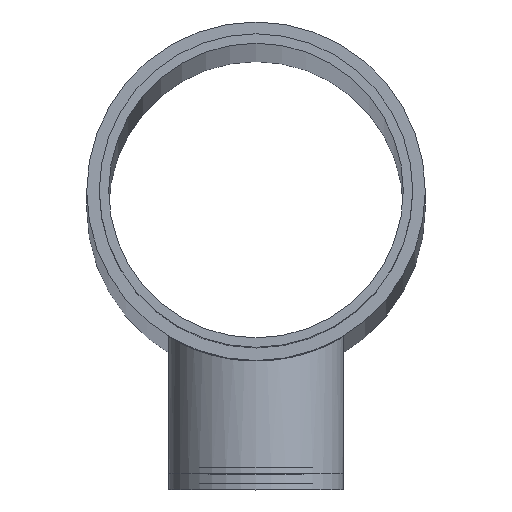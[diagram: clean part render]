
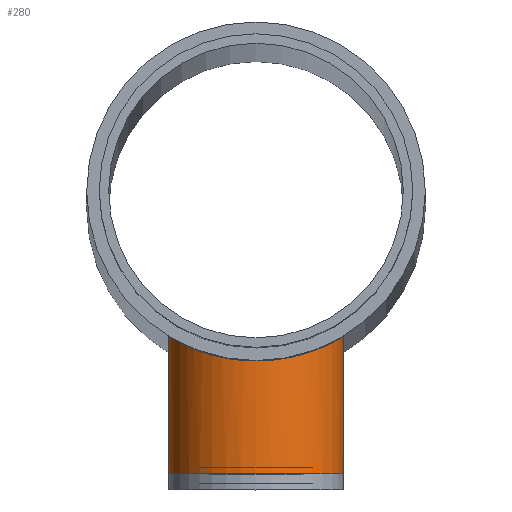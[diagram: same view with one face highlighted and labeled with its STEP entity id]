
A CAD part, top view. The second image highlights one B-rep face of the part: STEP entity #280.
In plain terms, the highlighted cylindrical face has radius 14 mm (diameter 28 mm), a full revolution.
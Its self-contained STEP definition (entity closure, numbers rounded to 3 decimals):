
#29=B_SPLINE_CURVE_WITH_KNOTS('',3,(#494,#495,#496,#497,#498,#499,#500,
#501,#502,#503,#504,#505,#506,#507,#508,#509,#510,#511,#512,#513,#514,#515,
#516,#517,#518,#519),.UNSPECIFIED.,.F.,.F.,(4,2,2,2,2,2,2,2,2,2,2,2,4),
(0.,0.27,0.54,1.08,1.618,
1.887,2.156,2.426,2.695,3.233,
3.773,4.043,4.313),.UNSPECIFIED.);
#30=B_SPLINE_CURVE_WITH_KNOTS('',3,(#520,#521,#522,#523,#524,#525,#526,
#527,#528,#529,#530,#531,#532,#533,#534,#535,#536,#537,#538,#539,#540,#541,
#542,#543,#544,#545),.UNSPECIFIED.,.F.,.F.,(4,2,2,2,2,2,2,2,2,2,2,2,4),
(4.313,4.583,4.853,5.393,5.931,
6.2,6.469,6.738,7.007,7.546,
8.086,8.356,8.626),.UNSPECIFIED.);
#37=LINE('',#547,#47);
#47=VECTOR('',#372,14.);
#57=CYLINDRICAL_SURFACE('',#321,14.);
#80=FACE_OUTER_BOUND('',#101,.T.);
#101=EDGE_LOOP('',(#212,#213,#214,#215,#216));
#130=CIRCLE('',#322,14.);
#148=VERTEX_POINT('',#492);
#149=VERTEX_POINT('',#493);
#150=VERTEX_POINT('',#546);
#174=EDGE_CURVE('',#148,#149,#29,.T.);
#175=EDGE_CURVE('',#149,#148,#30,.T.);
#176=EDGE_CURVE('',#149,#150,#37,.T.);
#177=EDGE_CURVE('',#150,#150,#130,.T.);
#212=ORIENTED_EDGE('',*,*,#174,.F.);
#213=ORIENTED_EDGE('',*,*,#175,.F.);
#214=ORIENTED_EDGE('',*,*,#176,.T.);
#215=ORIENTED_EDGE('',*,*,#177,.T.);
#216=ORIENTED_EDGE('',*,*,#176,.F.);
#280=ADVANCED_FACE('',(#80),#57,.T.);
#321=AXIS2_PLACEMENT_3D('',#491,#370,#371);
#322=AXIS2_PLACEMENT_3D('',#548,#373,#374);
#370=DIRECTION('center_axis',(0.,1.,0.));
#371=DIRECTION('ref_axis',(1.,0.,0.));
#372=DIRECTION('',(0.,-1.,0.));
#373=DIRECTION('center_axis',(0.,1.,0.));
#374=DIRECTION('ref_axis',(1.,0.,0.));
#491=CARTESIAN_POINT('Origin',(0.,-45.,1570.));
#492=CARTESIAN_POINT('',(14.,-23.087,1570.));
#493=CARTESIAN_POINT('',(-14.,-23.087,1570.));
#494=CARTESIAN_POINT('Ctrl Pts',(14.,-23.087,1570.));
#495=CARTESIAN_POINT('Ctrl Pts',(14.,-23.087,1569.1));
#496=CARTESIAN_POINT('Ctrl Pts',(13.912,-23.141,1568.177));
#497=CARTESIAN_POINT('Ctrl Pts',(13.549,-23.355,1566.353));
#498=CARTESIAN_POINT('Ctrl Pts',(13.274,-23.515,1565.453));
#499=CARTESIAN_POINT('Ctrl Pts',(12.195,-24.103,1562.877));
#500=CARTESIAN_POINT('Ctrl Pts',(11.125,-24.637,1561.327));
#501=CARTESIAN_POINT('Ctrl Pts',(8.677,-25.601,1558.878));
#502=CARTESIAN_POINT('Ctrl Pts',(7.126,-26.102,1557.806));
#503=CARTESIAN_POINT('Ctrl Pts',(4.545,-26.629,1556.726));
#504=CARTESIAN_POINT('Ctrl Pts',(3.644,-26.769,1556.45));
#505=CARTESIAN_POINT('Ctrl Pts',(1.819,-26.954,1556.088));
#506=CARTESIAN_POINT('Ctrl Pts',(0.897,-27.,1556.));
#507=CARTESIAN_POINT('Ctrl Pts',(-0.897,-27.,1556.));
#508=CARTESIAN_POINT('Ctrl Pts',(-1.819,-26.954,1556.088));
#509=CARTESIAN_POINT('Ctrl Pts',(-3.644,-26.769,1556.45));
#510=CARTESIAN_POINT('Ctrl Pts',(-4.545,-26.629,1556.726));
#511=CARTESIAN_POINT('Ctrl Pts',(-7.126,-26.102,1557.806));
#512=CARTESIAN_POINT('Ctrl Pts',(-8.677,-25.601,1558.878));
#513=CARTESIAN_POINT('Ctrl Pts',(-11.125,-24.637,1561.327));
#514=CARTESIAN_POINT('Ctrl Pts',(-12.195,-24.103,1562.877));
#515=CARTESIAN_POINT('Ctrl Pts',(-13.274,-23.515,1565.453));
#516=CARTESIAN_POINT('Ctrl Pts',(-13.549,-23.355,1566.353));
#517=CARTESIAN_POINT('Ctrl Pts',(-13.912,-23.141,1568.177));
#518=CARTESIAN_POINT('Ctrl Pts',(-14.,-23.087,1569.1));
#519=CARTESIAN_POINT('Ctrl Pts',(-14.,-23.087,1570.));
#520=CARTESIAN_POINT('Ctrl Pts',(-14.,-23.087,1570.));
#521=CARTESIAN_POINT('Ctrl Pts',(-14.,-23.087,1570.9));
#522=CARTESIAN_POINT('Ctrl Pts',(-13.912,-23.141,1571.823));
#523=CARTESIAN_POINT('Ctrl Pts',(-13.549,-23.355,1573.647));
#524=CARTESIAN_POINT('Ctrl Pts',(-13.274,-23.515,1574.547));
#525=CARTESIAN_POINT('Ctrl Pts',(-12.195,-24.103,1577.123));
#526=CARTESIAN_POINT('Ctrl Pts',(-11.125,-24.637,1578.673));
#527=CARTESIAN_POINT('Ctrl Pts',(-8.677,-25.601,1581.122));
#528=CARTESIAN_POINT('Ctrl Pts',(-7.126,-26.102,1582.194));
#529=CARTESIAN_POINT('Ctrl Pts',(-4.545,-26.629,1583.274));
#530=CARTESIAN_POINT('Ctrl Pts',(-3.644,-26.769,1583.55));
#531=CARTESIAN_POINT('Ctrl Pts',(-1.819,-26.954,1583.912));
#532=CARTESIAN_POINT('Ctrl Pts',(-0.897,-27.,1584.));
#533=CARTESIAN_POINT('Ctrl Pts',(0.897,-27.,1584.));
#534=CARTESIAN_POINT('Ctrl Pts',(1.819,-26.954,1583.912));
#535=CARTESIAN_POINT('Ctrl Pts',(3.644,-26.769,1583.55));
#536=CARTESIAN_POINT('Ctrl Pts',(4.545,-26.629,1583.274));
#537=CARTESIAN_POINT('Ctrl Pts',(7.126,-26.102,1582.194));
#538=CARTESIAN_POINT('Ctrl Pts',(8.677,-25.601,1581.122));
#539=CARTESIAN_POINT('Ctrl Pts',(11.125,-24.637,1578.673));
#540=CARTESIAN_POINT('Ctrl Pts',(12.195,-24.103,1577.123));
#541=CARTESIAN_POINT('Ctrl Pts',(13.274,-23.515,1574.547));
#542=CARTESIAN_POINT('Ctrl Pts',(13.549,-23.355,1573.647));
#543=CARTESIAN_POINT('Ctrl Pts',(13.912,-23.141,1571.823));
#544=CARTESIAN_POINT('Ctrl Pts',(14.,-23.087,1570.9));
#545=CARTESIAN_POINT('Ctrl Pts',(14.,-23.087,1570.));
#546=CARTESIAN_POINT('',(-14.,-45.,1570.));
#547=CARTESIAN_POINT('',(-14.,-45.,1570.));
#548=CARTESIAN_POINT('Origin',(0.,-45.,1570.));
